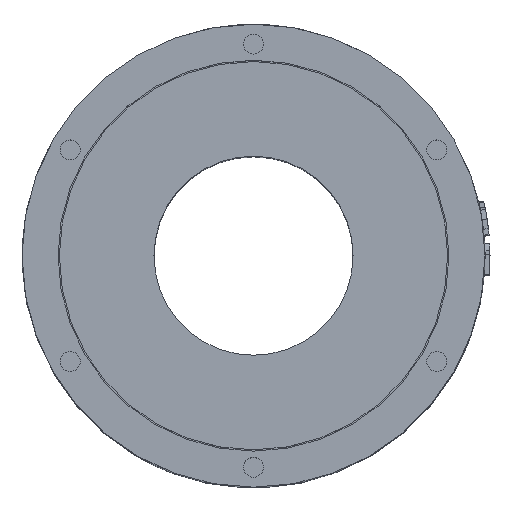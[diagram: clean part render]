
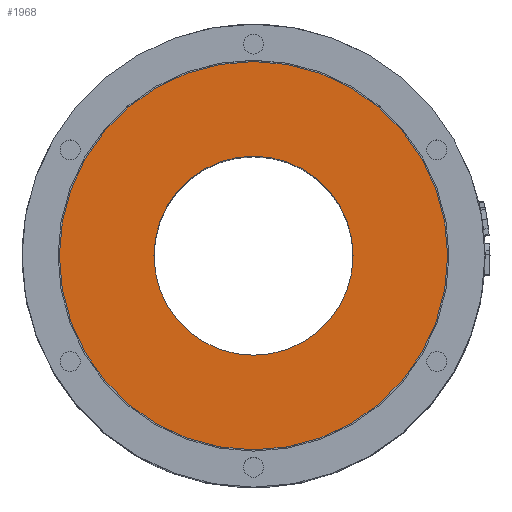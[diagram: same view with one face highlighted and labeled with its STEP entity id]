
A CAD part, top view. The second image highlights one B-rep face of the part: STEP entity #1968.
In plain terms, the highlighted planar face has unit normal (0, 0, 1).
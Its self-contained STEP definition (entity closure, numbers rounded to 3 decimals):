
#684=PLANE('',#7427);
#1968=ADVANCED_FACE('',(#2407,#2408),#684,.F.);
#2183=CIRCLE('',#7205,20.);
#2268=CIRCLE('',#7425,39.);
#2407=FACE_BOUND('',#2890,.T.);
#2408=FACE_BOUND('',#2891,.T.);
#2890=EDGE_LOOP('',(#4461));
#2891=EDGE_LOOP('',(#4462));
#4461=ORIENTED_EDGE('',*,*,#5704,.F.);
#4462=ORIENTED_EDGE('',*,*,#6525,.T.);
#5034=VERTEX_POINT('',#9078);
#5600=VERTEX_POINT('',#15976);
#5704=EDGE_CURVE('',#5034,#5034,#2183,.T.);
#6525=EDGE_CURVE('',#5600,#5600,#2268,.T.);
#7205=AXIS2_PLACEMENT_3D('',#9077,#7605,#7606);
#7425=AXIS2_PLACEMENT_3D('',#15975,#8550,#8551);
#7427=AXIS2_PLACEMENT_3D('',#15978,#8554,#8555);
#7605=DIRECTION('',(0.,0.,1.));
#7606=DIRECTION('',(-1.,0.,0.));
#8550=DIRECTION('',(0.,0.,1.));
#8551=DIRECTION('',(1.,0.,0.));
#8554=DIRECTION('',(0.,0.,-1.));
#8555=DIRECTION('',(-1.,0.,0.));
#9077=CARTESIAN_POINT('',(0.,0.,90.5));
#9078=CARTESIAN_POINT('',(-20.,0.,90.5));
#15975=CARTESIAN_POINT('',(0.,0.,90.5));
#15976=CARTESIAN_POINT('',(39.,0.,90.5));
#15978=CARTESIAN_POINT('',(0.,0.,90.5));
